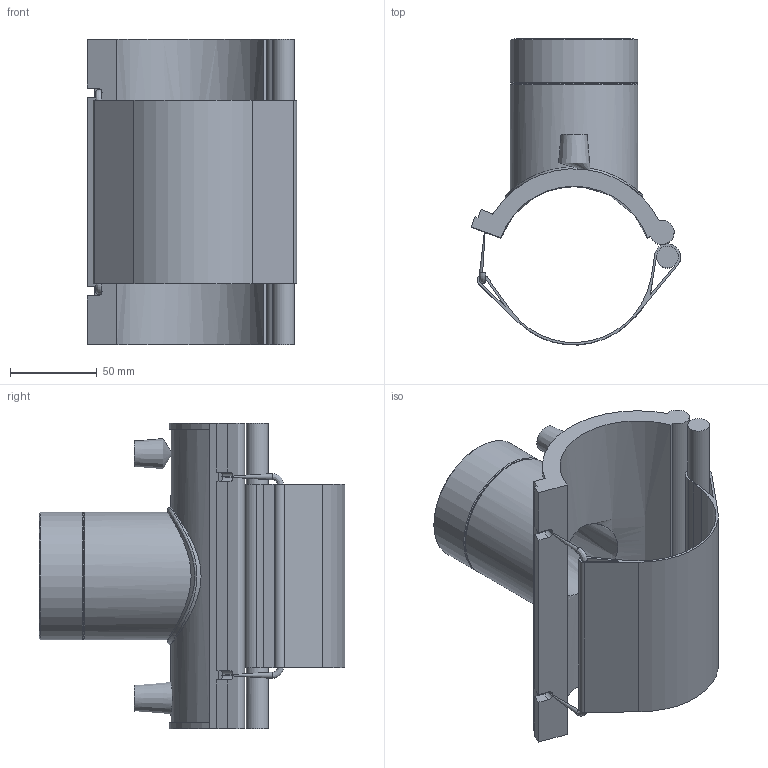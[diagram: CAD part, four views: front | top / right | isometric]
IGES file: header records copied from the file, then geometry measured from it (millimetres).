
Global section: file name: 493804090020.ipt; native system: Autodesk Inventor 2015; preprocessor: unknown; author: KIM; date: 20171106.094102; units: millimetre
Bounding box: 120.61 x 176.28 x 176 mm (x, y, z)
Volume: 441119.2 mm3; surface area: 140962.2 mm2
Topology: 1 solids, 3 shells, 78 faces, 192 edges, 126 vertices
Faces by surface type: plane 42, cylinder 19, revolution 11, cone 5, bspline 1
Full cylindrical faces by diameter (mm): 3.6 x2, 4 x2, 12.531 x1, 72.653 x1, 73.653 x2, 79.318 x1
